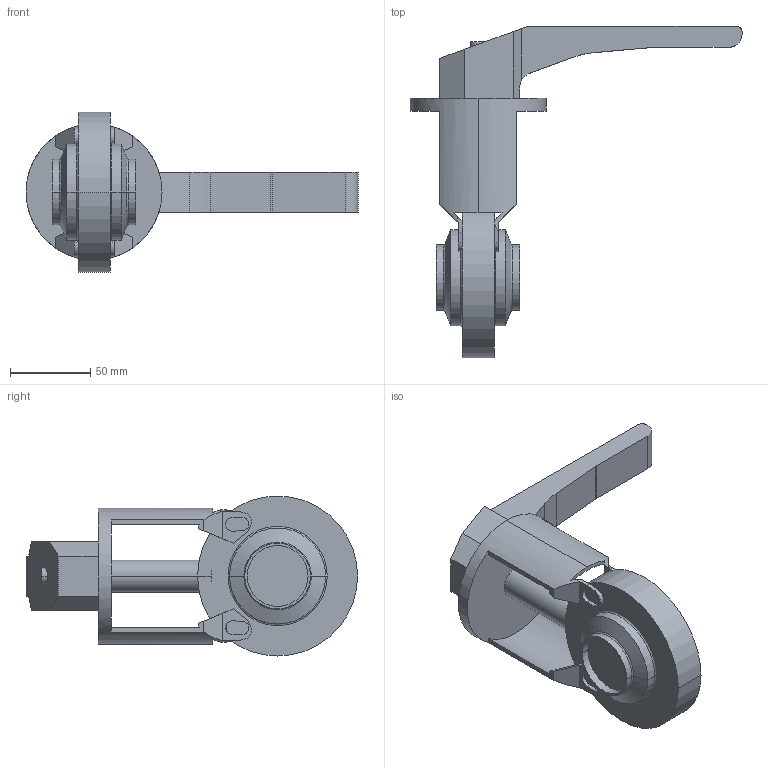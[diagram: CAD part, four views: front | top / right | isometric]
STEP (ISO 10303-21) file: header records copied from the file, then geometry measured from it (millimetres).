
FILE_DESCRIPTION(('Creo Elements/Direct Modeling STEP Export'),'2;1');
FILE_NAME('SV1-40-HL-12S.stp','2014-12-01T 9:55:47',(''),(''),'Creo Elements/Direct Modeling STEP processor for AP214 (Solid Model)','Creo Elements/Direct Modeling 17.0D 15-Jul-2011 (C) Parametric Technology GmbH','');
FILE_SCHEMA(('AUTOMOTIVE_DESIGN { 1 0 10303 214 1 1 1 1 }'));
Length unit declared in the file: millimetre
Products named in the file (4): Handhebel-SV-40-100; SV_Laterne_HL_40_50; SV1-40-12S; SV1_40_HL_12S
Assembly tree (3 placements, depth 2):
  SV1_40_HL_12S
    SV1-40-12S
    SV_Laterne_HL_40_50
    Handhebel-SV-40-100
Bounding box: 207.5 x 207 x 100 mm (x, y, z)
Volume: 426691.3 mm3; surface area: 83343.2 mm2
Topology: 3 solids, 3 shells, 141 faces, 367 edges, 238 vertices
Faces by surface type: plane 88, cylinder 41, torus 8, cone 4
Entity records: 4595 total; most frequent: CARTESIAN_POINT 1090, ORIENTED_EDGE 734, DIRECTION 693, EDGE_CURVE 367, VERTEX_POINT 238, AXIS2_PLACEMENT_3D 234, VECTOR 225, LINE 225
